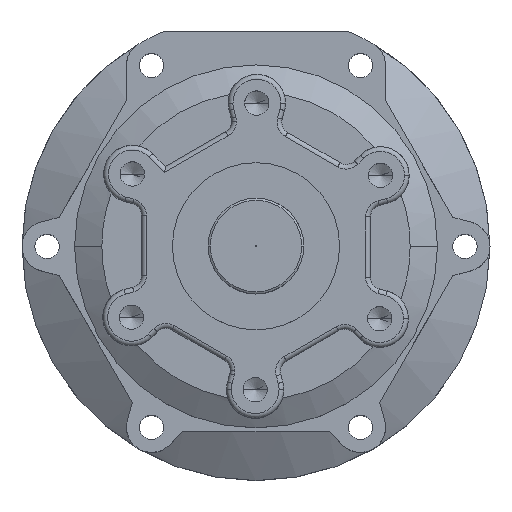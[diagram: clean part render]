
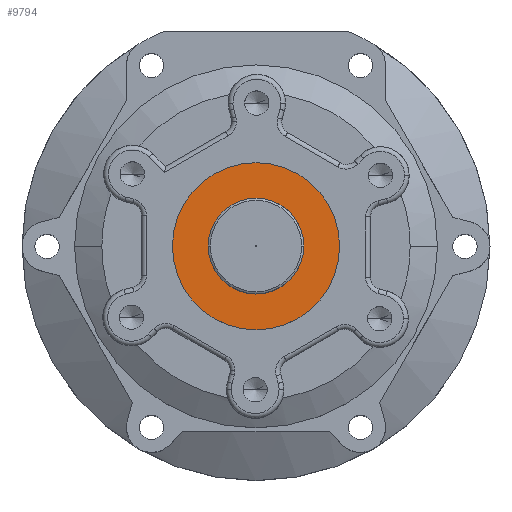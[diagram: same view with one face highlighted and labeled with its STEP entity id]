
A CAD part, top view. The second image highlights one B-rep face of the part: STEP entity #9794.
In plain terms, the highlighted planar face has unit normal (0, 0, 1).
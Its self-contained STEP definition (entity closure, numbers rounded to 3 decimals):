
#28 = CARTESIAN_POINT ( 'NONE',  ( 20., 0., 89. ) ) ;
#1043 = CARTESIAN_POINT ( 'NONE',  ( 0., 0., 89. ) ) ;
#1903 = DIRECTION ( 'NONE',  ( 1., 0., 0. ) ) ;
#2953 = CIRCLE ( 'NONE', #5308, 20. ) ;
#2961 = CARTESIAN_POINT ( 'NONE',  ( 35., 0., 89. ) ) ;
#3367 = CIRCLE ( 'NONE', #25897, 35. ) ;
#3495 = CIRCLE ( 'NONE', #8679, 35. ) ;
#3900 = CIRCLE ( 'NONE', #5281, 20. ) ;
#4100 = DIRECTION ( 'NONE',  ( 1., 0., 0. ) ) ;
#4250 = FACE_BOUND ( 'NONE', #21600, .T. ) ;
#5202 = FACE_OUTER_BOUND ( 'NONE', #11478, .T. ) ;
#5281 = AXIS2_PLACEMENT_3D ( 'NONE', #1043, #9297, #11092 ) ;
#5308 = AXIS2_PLACEMENT_3D ( 'NONE', #8181, #12543, #14330 ) ;
#6617 = DIRECTION ( 'NONE',  ( 1., 0., 0. ) ) ;
#6879 = EDGE_CURVE ( 'NONE', #26374, #21577, #2953, .T. ) ;
#7089 = AXIS2_PLACEMENT_3D ( 'NONE', #25187, #16703, #6617 ) ;
#8181 = CARTESIAN_POINT ( 'NONE',  ( 0., 0., 89. ) ) ;
#8679 = AXIS2_PLACEMENT_3D ( 'NONE', #20348, #22580, #4100 ) ;
#8738 = PLANE ( 'NONE',  #7089 ) ;
#9297 = DIRECTION ( 'NONE',  ( 0., 0., 1. ) ) ;
#9768 = CARTESIAN_POINT ( 'NONE',  ( -35., 0., 89. ) ) ;
#9794 = ADVANCED_FACE ( 'NONE', ( #5202, #4250 ), #8738, .T. ) ;
#9895 = ORIENTED_EDGE ( 'NONE', *, *, #19058, .T. ) ;
#10063 = DIRECTION ( 'NONE',  ( 0., 0., 1. ) ) ;
#10156 = CARTESIAN_POINT ( 'NONE',  ( 0., 0., 89. ) ) ;
#11092 = DIRECTION ( 'NONE',  ( 1., 0., 0. ) ) ;
#11478 = EDGE_LOOP ( 'NONE', ( #22407, #9895 ) ) ;
#12543 = DIRECTION ( 'NONE',  ( 0., 0., 1. ) ) ;
#12983 = VERTEX_POINT ( 'NONE', #9768 ) ;
#13888 = EDGE_CURVE ( 'NONE', #12983, #21287, #3495, .T. ) ;
#14330 = DIRECTION ( 'NONE',  ( 1., 0., 0. ) ) ;
#15404 = ORIENTED_EDGE ( 'NONE', *, *, #6879, .F. ) ;
#15895 = ORIENTED_EDGE ( 'NONE', *, *, #24735, .F. ) ;
#16475 = CARTESIAN_POINT ( 'NONE',  ( -20., 0., 89. ) ) ;
#16703 = DIRECTION ( 'NONE',  ( 0., 0., 1. ) ) ;
#19058 = EDGE_CURVE ( 'NONE', #21287, #12983, #3367, .T. ) ;
#20348 = CARTESIAN_POINT ( 'NONE',  ( 0., 0., 89. ) ) ;
#21287 = VERTEX_POINT ( 'NONE', #2961 ) ;
#21577 = VERTEX_POINT ( 'NONE', #16475 ) ;
#21600 = EDGE_LOOP ( 'NONE', ( #15404, #15895 ) ) ;
#22407 = ORIENTED_EDGE ( 'NONE', *, *, #13888, .T. ) ;
#22580 = DIRECTION ( 'NONE',  ( 0., 0., 1. ) ) ;
#24735 = EDGE_CURVE ( 'NONE', #21577, #26374, #3900, .T. ) ;
#25187 = CARTESIAN_POINT ( 'NONE',  ( 0., 0., 89. ) ) ;
#25897 = AXIS2_PLACEMENT_3D ( 'NONE', #10156, #10063, #1903 ) ;
#26374 = VERTEX_POINT ( 'NONE', #28 ) ;
